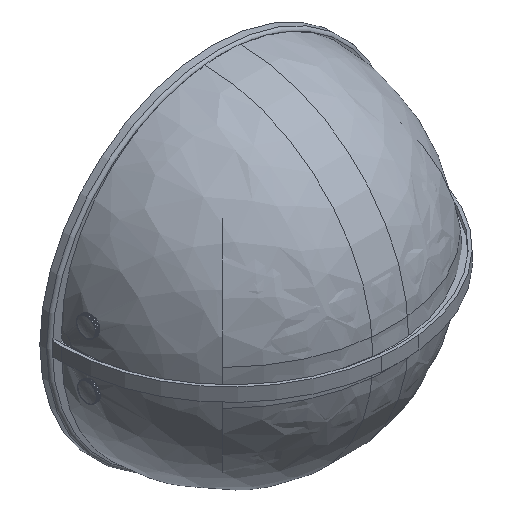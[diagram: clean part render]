
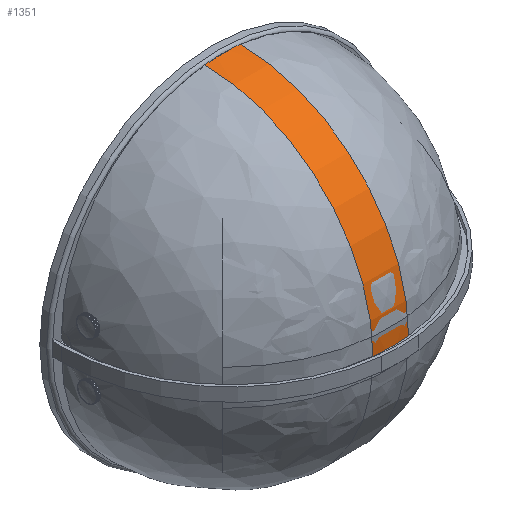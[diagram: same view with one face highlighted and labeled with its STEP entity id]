
A CAD part, isometric view. The second image highlights one B-rep face of the part: STEP entity #1351.
In plain terms, the highlighted spherical face has radius 89 mm.
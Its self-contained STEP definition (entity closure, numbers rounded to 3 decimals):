
#1351 = ADVANCED_FACE( '', ( #2504 ), #2505, .T. );
#2504 = FACE_OUTER_BOUND( '', #3887, .T. );
#2505 = SPHERICAL_SURFACE( '', #3888, 89. );
#3887 = EDGE_LOOP( '', ( #6700, #6701, #6702, #6703 ) );
#3888 = AXIS2_PLACEMENT_3D( '', #6704, #6705, #6706 );
#6700 = ORIENTED_EDGE( '', *, *, #10445, .F. );
#6701 = ORIENTED_EDGE( '', *, *, #10456, .T. );
#6702 = ORIENTED_EDGE( '', *, *, #10435, .F. );
#6703 = ORIENTED_EDGE( '', *, *, #10455, .F. );
#6704 = CARTESIAN_POINT( '', ( 0., 0., 0. ) );
#6705 = DIRECTION( '', ( 0., 0., -1. ) );
#6706 = DIRECTION( '', ( -1., 0., 0. ) );
#10435 = EDGE_CURVE( '', #12299, #12301, #12302, .F. );
#10445 = EDGE_CURVE( '', #12316, #12318, #12319, .F. );
#10455 = EDGE_CURVE( '', #12318, #12299, #12333, .T. );
#10456 = EDGE_CURVE( '', #12316, #12301, #12334, .T. );
#12299 = VERTEX_POINT( '', #14813 );
#12301 = VERTEX_POINT( '', #14815 );
#12302 = CIRCLE( '', #14816, 89. );
#12316 = VERTEX_POINT( '', #14894 );
#12318 = VERTEX_POINT( '', #14896 );
#12319 = CIRCLE( '', #14897, 89. );
#12333 = CIRCLE( '', #14975, 88.508 );
#12334 = CIRCLE( '', #14976, 88.508 );
#14813 = CARTESIAN_POINT( '', ( -62.585, -62.585, -9.343 ) );
#14815 = CARTESIAN_POINT( '', ( -62.585, -62.585, 9.343 ) );
#14816 = AXIS2_PLACEMENT_3D( '', #17757, #17758, #17759 );
#14894 = CARTESIAN_POINT( '', ( 62.585, -62.585, 9.343 ) );
#14896 = CARTESIAN_POINT( '', ( 62.585, -62.585, -9.343 ) );
#14897 = AXIS2_PLACEMENT_3D( '', #17782, #17783, #17784 );
#14975 = AXIS2_PLACEMENT_3D( '', #17803, #17804, #17805 );
#14976 = AXIS2_PLACEMENT_3D( '', #17806, #17807, #17808 );
#17757 = CARTESIAN_POINT( '', ( 0., 0., 0. ) );
#17758 = DIRECTION( '', ( 0.707, -0.707, 0. ) );
#17759 = DIRECTION( '', ( 0.707, 0.707, 0. ) );
#17782 = CARTESIAN_POINT( '', ( 0., 0., 0. ) );
#17783 = DIRECTION( '', ( -0.707, -0.707, 0. ) );
#17784 = DIRECTION( '', ( 0.707, -0.707, 0. ) );
#17803 = CARTESIAN_POINT( '', ( 0., 0., -9.343 ) );
#17804 = DIRECTION( '', ( 0., 0., -1. ) );
#17805 = DIRECTION( '', ( -1., 0., 0. ) );
#17806 = CARTESIAN_POINT( '', ( 0., 0., 9.343 ) );
#17807 = DIRECTION( '', ( 0., 0., -1. ) );
#17808 = DIRECTION( '', ( -1., 0., 0. ) );
